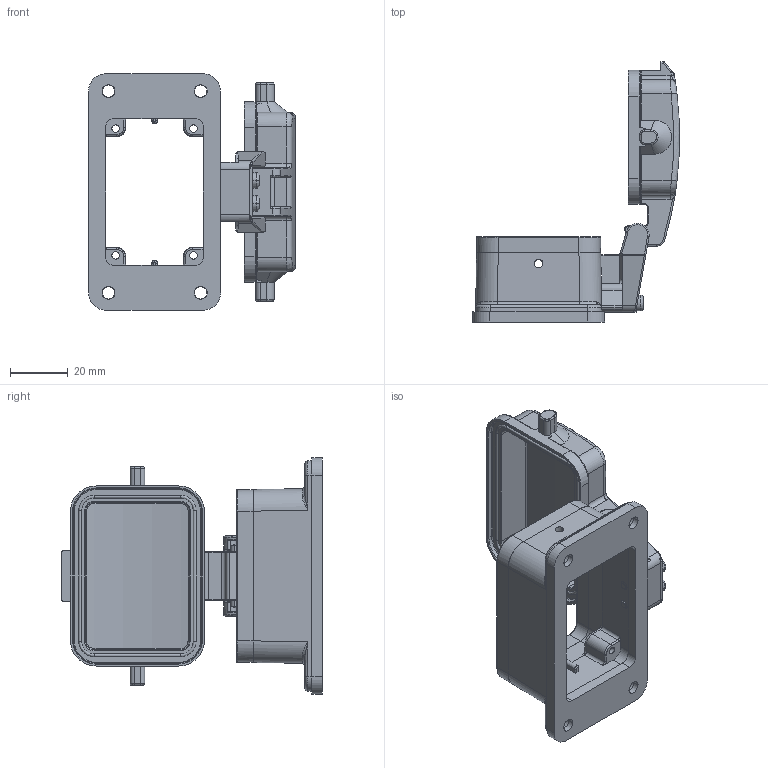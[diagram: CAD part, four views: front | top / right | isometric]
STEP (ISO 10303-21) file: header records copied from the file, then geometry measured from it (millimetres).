
FILE_DESCRIPTION (( 'STEP AP203' ), '1' );
FILE_NAME ('H6B-AD.STEP', '2020-11-21T02:27:23', ( '' ), ( '' ), 'SwSTEP 2.0', 'SolidWorks 2016', '' );
FILE_SCHEMA (( 'CONFIG_CONTROL_DESIGN' ));
Length unit declared in the file: millimetre
Products named in the file (9): b-xl-t-gudingjian; baohugailuosi; m00607-1; H6B-AD; prt0001; baohugaitanpian; h6bmifengdian; 0000061120; chaxiao
Assembly tree (9 placements, depth 2):
  H6B-AD
    prt0001
    chaxiao
    b-xl-t-gudingjian
    0000061120
    baohugaitanpian
    baohugailuosi  x2
    m00607-1
    h6bmifengdian
Bounding box: 71.73 x 90.4 x 82 mm (x, y, z)
Volume: 44665.7 mm3; surface area: 40704.5 mm2
Topology: 8 solids, 9 shells, 1011 faces, 2557 edges, 1568 vertices
Faces by surface type: cylinder 448, bspline 270, plane 244, cone 49
Entity records: 153491 total; most frequent: CARTESIAN_POINT 133456, ORIENTED_EDGE 4368, DIRECTION 3420, EDGE_CURVE 2200, VERTEX_POINT 1351, AXIS2_PLACEMENT_3D 1199, VECTOR 1022, LINE 1022
